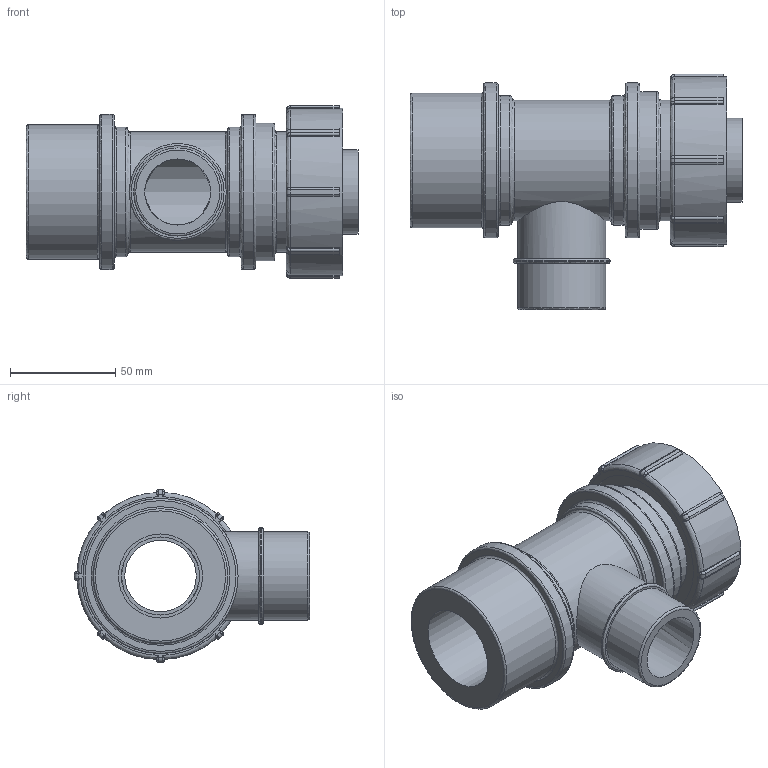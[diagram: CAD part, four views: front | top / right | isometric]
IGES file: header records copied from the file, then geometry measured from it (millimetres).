
Global section: file name: 0784L60400130A.ipt; native system: Autodesk Inventor 2015; preprocessor: unknown; author: KIM; date: 20180409.130816; units: millimetre
Bounding box: 158 x 112 x 82 mm (x, y, z)
Volume: 359855.8 mm3; surface area: 75955.1 mm2
Topology: 1 solids, 1 shells, 166 faces, 424 edges, 276 vertices
Faces by surface type: revolution 63, cylinder 53, plane 50
Full cylindrical faces by diameter (mm): 40 x1, 41.91 x2, 46.101 x1, 57.4 x2, 61.5 x2, 64 x1, 65.6 x1, 73.8 x2, 79.54 x1
